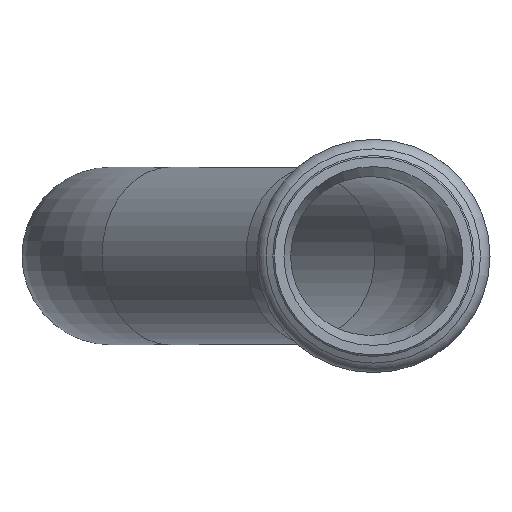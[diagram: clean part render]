
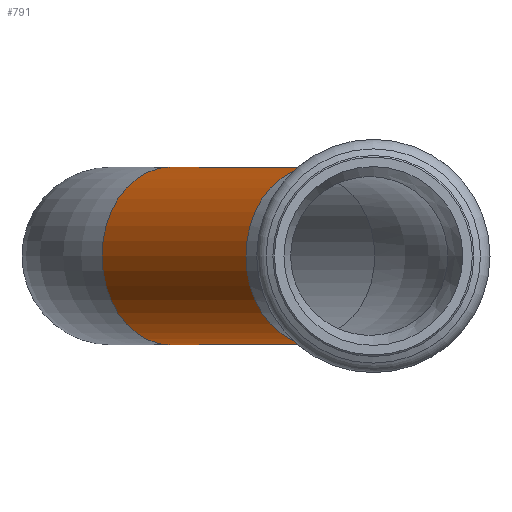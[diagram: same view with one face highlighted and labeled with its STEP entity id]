
A CAD part, left-side view. The second image highlights one B-rep face of the part: STEP entity #791.
In plain terms, the highlighted cylindrical face has radius 14 mm (diameter 28 mm), a full revolution.
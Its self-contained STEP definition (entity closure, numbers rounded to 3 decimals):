
#760=CARTESIAN_POINT('',(-61.756,20.083,0.));
#761=VERTEX_POINT('',#760);
#762=CARTESIAN_POINT('',(-52.757,9.358,0.0));
#763=DIRECTION('',(0.766,0.643,0.0));
#764=DIRECTION('',(0.643,-0.766,0.0));
#765=AXIS2_PLACEMENT_3D('',#762,#763,#764);
#766=CIRCLE('',#765,14.);
#767=EDGE_CURVE('',#761,#761,#766,.T.);
#772=CARTESIAN_POINT('',(-25.712,32.052,0.0));
#773=DIRECTION('',(-0.766,-0.643,0.0));
#774=DIRECTION('',(0.643,-0.766,0.0));
#775=AXIS2_PLACEMENT_3D('',#772,#773,#774);
#776=CYLINDRICAL_SURFACE('',#775,14.);
#777=ORIENTED_EDGE('',*,*,#767,.T.);
#778=EDGE_LOOP('',(#777));
#779=FACE_OUTER_BOUND('',#778,.T.);
#780=CARTESIAN_POINT('',(-34.711,42.776,0.));
#781=VERTEX_POINT('',#780);
#782=CARTESIAN_POINT('',(-25.712,32.052,0.0));
#783=DIRECTION('',(0.766,0.643,0.0));
#784=DIRECTION('',(0.643,-0.766,0.0));
#785=AXIS2_PLACEMENT_3D('',#782,#783,#784);
#786=CIRCLE('',#785,14.);
#787=EDGE_CURVE('',#781,#781,#786,.T.);
#788=ORIENTED_EDGE('',*,*,#787,.F.);
#789=EDGE_LOOP('',(#788));
#790=FACE_BOUND('',#789,.T.);
#791=ADVANCED_FACE('',(#779,#790),#776,.T.);
